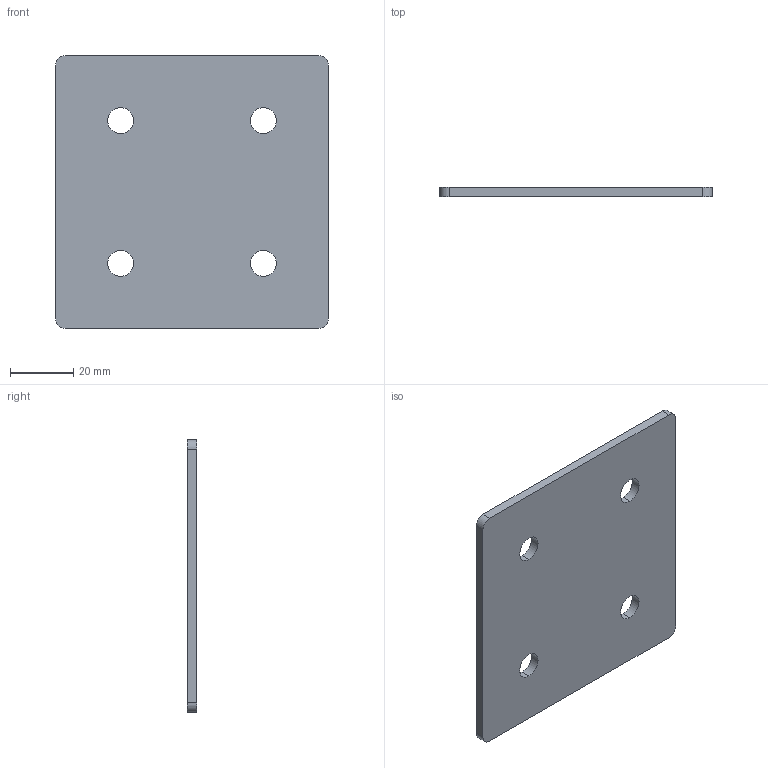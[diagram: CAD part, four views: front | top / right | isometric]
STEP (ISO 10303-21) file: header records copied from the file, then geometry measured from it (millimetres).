
FILE_DESCRIPTION (( 'STEP AP203' ), '1' );
FILE_NAME ('ﾏ-4ﾊ-45.STEP', '2016-07-23T15:04:53', ( '' ), ( '' ), 'SwSTEP 2.0', 'SolidWorks 2014', '' );
FILE_SCHEMA (( 'CONFIG_CONTROL_DESIGN' ));
Length unit declared in the file: millimetre
Products named in the file (1): ﾏ-4ﾊ-45
Bounding box: 86 x 3 x 86 mm (x, y, z)
Surface area: 15679.7 mm2 (no closed solid volume)
Topology: 0 solids, 1 shells, 18 faces, 48 edges, 32 vertices
Faces by surface type: cylinder 12, plane 6
Entity records: 669 total; most frequent: DIRECTION 110, CARTESIAN_POINT 99, ORIENTED_EDGE 96, EDGE_CURVE 48, AXIS2_PLACEMENT_3D 43, VERTEX_POINT 32, EDGE_LOOP 26, CIRCLE 24
